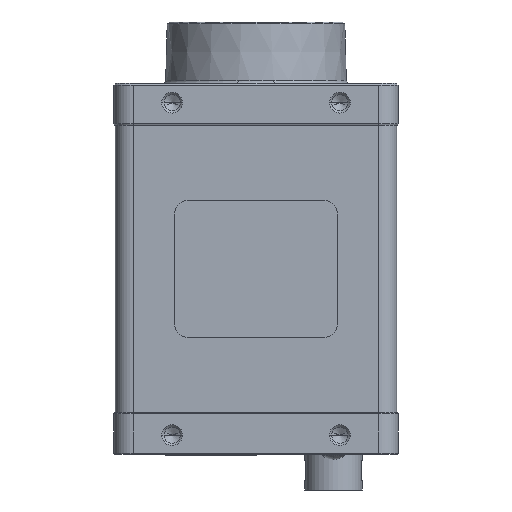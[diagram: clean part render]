
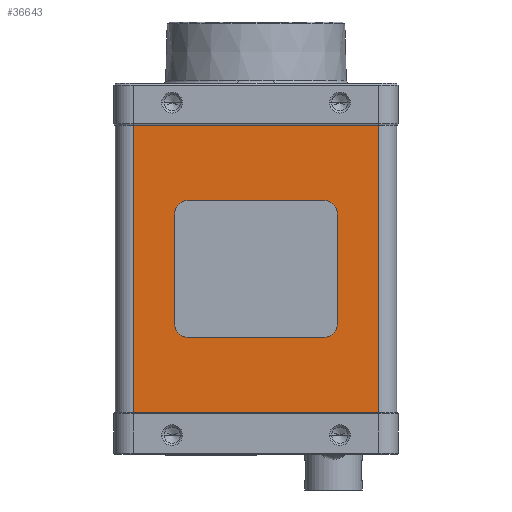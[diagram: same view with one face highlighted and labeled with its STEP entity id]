
A CAD part, front view. The second image highlights one B-rep face of the part: STEP entity #36643.
In plain terms, the highlighted planar face has unit normal (0, -1, 0).
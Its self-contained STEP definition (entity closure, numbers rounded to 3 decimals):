
#3465=DIRECTION('',(0.,0.,1.));
#3466=VECTOR('',#3465,44.5);
#3467=CARTESIAN_POINT('',(19.,-14.3,-22.25));
#3468=LINE('',#3467,#3466);
#3933=DIRECTION('',(0.,0.,-1.));
#3934=VECTOR('',#3933,44.5);
#3935=CARTESIAN_POINT('',(-19.,-14.3,22.25));
#3936=LINE('',#3935,#3934);
#4109=DIRECTION('',(1.,0.,0.));
#4110=VECTOR('',#4109,38.);
#4111=CARTESIAN_POINT('',(-19.,-14.3,22.25));
#4112=LINE('',#4111,#4110);
#4123=CARTESIAN_POINT('',(-10.5,-14.3,8.5));
#4124=DIRECTION('',(0.,-1.,0.));
#4125=DIRECTION('',(0.,0.,1.));
#4126=AXIS2_PLACEMENT_3D('',#4123,#4124,#4125);
#4131=CARTESIAN_POINT('',(-10.5,-14.3,-8.5));
#4132=DIRECTION('',(0.,-1.,0.));
#4133=DIRECTION('',(-1.,0.,0.));
#4134=AXIS2_PLACEMENT_3D('',#4131,#4132,#4133);
#4139=CARTESIAN_POINT('',(10.5,-14.3,-8.5));
#4140=DIRECTION('',(0.,-1.,0.));
#4141=DIRECTION('',(0.,0.,-1.));
#4142=AXIS2_PLACEMENT_3D('',#4139,#4140,#4141);
#4147=CARTESIAN_POINT('',(10.5,-14.3,8.5));
#4148=DIRECTION('',(0.,-1.,0.));
#4149=DIRECTION('',(1.,0.,0.));
#4150=AXIS2_PLACEMENT_3D('',#4147,#4148,#4149);
#4155=DIRECTION('',(1.,0.,0.));
#4156=VECTOR('',#4155,38.);
#4157=CARTESIAN_POINT('',(-19.,-14.3,-22.25));
#4158=LINE('',#4157,#4156);
#4162=DIRECTION('',(1.,0.,0.));
#4163=VECTOR('',#4162,21.);
#4164=CARTESIAN_POINT('',(-10.5,-14.3,10.607));
#4165=LINE('',#4164,#4163);
#4243=DIRECTION('',(0.,0.,-1.));
#4244=VECTOR('',#4243,17.);
#4245=CARTESIAN_POINT('',(12.607,-14.3,8.5));
#4246=LINE('',#4245,#4244);
#4264=DIRECTION('',(-1.,0.,0.));
#4265=VECTOR('',#4264,21.);
#4266=CARTESIAN_POINT('',(10.5,-14.3,-10.607));
#4267=LINE('',#4266,#4265);
#4285=DIRECTION('',(0.,0.,1.));
#4286=VECTOR('',#4285,17.);
#4287=CARTESIAN_POINT('',(-12.607,-14.3,-8.5));
#4288=LINE('',#4287,#4286);
#29869=CARTESIAN_POINT('',(-19.,-14.3,-22.25));
#29870=VERTEX_POINT('',#29869);
#29873=CARTESIAN_POINT('',(19.,-14.3,-22.25));
#29874=VERTEX_POINT('',#29873);
#33520=CARTESIAN_POINT('',(-10.5,-14.3,10.607));
#33521=CARTESIAN_POINT('',(10.5,-14.3,10.607));
#33522=VERTEX_POINT('',#33520);
#33523=VERTEX_POINT('',#33521);
#33524=CARTESIAN_POINT('',(-12.607,-14.3,8.5));
#33525=VERTEX_POINT('',#33524);
#33526=CARTESIAN_POINT('',(-12.607,-14.3,-8.5));
#33527=VERTEX_POINT('',#33526);
#33528=CARTESIAN_POINT('',(-10.5,-14.3,-10.607));
#33529=VERTEX_POINT('',#33528);
#33530=CARTESIAN_POINT('',(10.5,-14.3,-10.607));
#33531=VERTEX_POINT('',#33530);
#33532=CARTESIAN_POINT('',(12.607,-14.3,-8.5));
#33533=VERTEX_POINT('',#33532);
#33534=CARTESIAN_POINT('',(12.607,-14.3,8.5));
#33535=VERTEX_POINT('',#33534);
#33564=CARTESIAN_POINT('',(-19.,-14.3,22.25));
#33565=VERTEX_POINT('',#33564);
#33566=CARTESIAN_POINT('',(19.,-14.3,22.25));
#33567=VERTEX_POINT('',#33566);
#36614=CARTESIAN_POINT('',(-19.,-14.3,-28.75));
#36615=DIRECTION('',(0.,-1.,0.));
#36616=DIRECTION('',(1.,0.,0.));
#36617=AXIS2_PLACEMENT_3D('',#36614,#36615,#36616);
#36618=PLANE('',#36617);
#36619=ORIENTED_EDGE('',*,*,#36443,.F.);
#36620=ORIENTED_EDGE('',*,*,#36605,.T.);
#36621=ORIENTED_EDGE('',*,*,#36060,.F.);
#36622=ORIENTED_EDGE('',*,*,#36128,.F.);
#36623=EDGE_LOOP('',(#36619,#36620,#36621,#36622));
#36624=FACE_OUTER_BOUND('',#36623,.F.);
#36626=ORIENTED_EDGE('',*,*,#36625,.F.);
#36628=ORIENTED_EDGE('',*,*,#36627,.T.);
#36630=ORIENTED_EDGE('',*,*,#36629,.F.);
#36632=ORIENTED_EDGE('',*,*,#36631,.T.);
#36634=ORIENTED_EDGE('',*,*,#36633,.F.);
#36636=ORIENTED_EDGE('',*,*,#36635,.T.);
#36638=ORIENTED_EDGE('',*,*,#36637,.F.);
#36640=ORIENTED_EDGE('',*,*,#36639,.T.);
#36641=EDGE_LOOP('',(#36626,#36628,#36630,#36632,#36634,#36636,#36638,#36640));
#36642=FACE_BOUND('',#36641,.F.);
#36643=ADVANCED_FACE('',(#36624,#36642),#36618,.T.);
#4127=CIRCLE('',#4126,2.107);
#4135=CIRCLE('',#4134,2.107);
#4143=CIRCLE('',#4142,2.107);
#4151=CIRCLE('',#4150,2.107);
#36060=EDGE_CURVE('',#29874,#33567,#3468,.T.);
#36128=EDGE_CURVE('',#29870,#29874,#4158,.T.);
#36443=EDGE_CURVE('',#33565,#29870,#3936,.T.);
#36605=EDGE_CURVE('',#33565,#33567,#4112,.T.);
#36625=EDGE_CURVE('',#33522,#33523,#4165,.T.);
#36627=EDGE_CURVE('',#33522,#33525,#4127,.T.);
#36629=EDGE_CURVE('',#33527,#33525,#4288,.T.);
#36631=EDGE_CURVE('',#33527,#33529,#4135,.T.);
#36633=EDGE_CURVE('',#33531,#33529,#4267,.T.);
#36635=EDGE_CURVE('',#33531,#33533,#4143,.T.);
#36637=EDGE_CURVE('',#33535,#33533,#4246,.T.);
#36639=EDGE_CURVE('',#33535,#33523,#4151,.T.);
